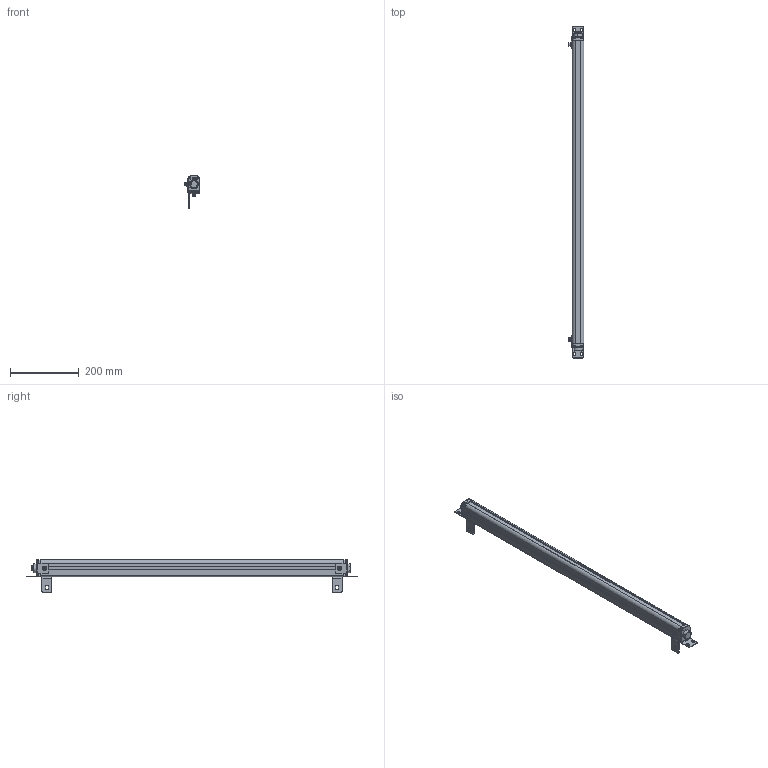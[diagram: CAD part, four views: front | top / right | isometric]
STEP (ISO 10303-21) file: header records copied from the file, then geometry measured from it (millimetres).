
FILE_DESCRIPTION((''),'2;1');
FILE_NAME('ESN--000_ASM','2021-08-11T16:25:20',('18720616900'),(''),'CREO PARAMETRIC BY PTC INC, 2019010','CREO PARAMETRIC BY PTC INC, 2019010','');
FILE_SCHEMA(('CONFIG_CONTROL_DESIGN'));
Products named in the file (22): 00; 000; _0002; _0003; _0004; 5000; 5--0001; ESN_50001_ASM; ST-3-120001; L10001; M6-8--0001; M6-1--00; M6-1-00; M6-80001_ASM; L1--0001_ASM; H1--000; H1--0003_ASM; H1--0001_ASM; ESN--000_ASM
Assembly tree (35 placements, depth 4):
  ESN--000_ASM
    00
    000
    _0002
    _0003
    _0004
    000
    ESN_50001_ASM
      5000
      5--0001  x5
    ST-3-120001  x8
    L1--0001_ASM  x2
      L10001
      M6-80001_ASM
        M6-8--0001
        M6-1--00
        M6-1-00
        00
    H1--0003_ASM
      H1--000
      M6-80001_ASM
        M6-8--0001
        M6-1--00
        M6-1-00
        00
    H1--0001_ASM
      H1--000
      M6-80001_ASM
        M6-8--0001
        M6-1--00
        M6-1-00
        00
Bounding box: 46.5 x 967 x 94.95 mm (x, y, z)
Volume: 1367321.1 mm3; surface area: 296052.1 mm2
Topology: 40 solids, 40 shells, 1785 faces, 4708 edges, 3012 vertices
Faces by surface type: plane 583, cylinder 416, bspline 362, cone 291, torus 107, sphere 26
Entity records: 48222 total; most frequent: CARTESIAN_POINT 24957, ORIENTED_EDGE 5136, DIRECTION 4189, EDGE_CURVE 2568, VERTEX_POINT 1669, AXIS2_PLACEMENT_3D 1488, VECTOR 1213, LINE 1213
